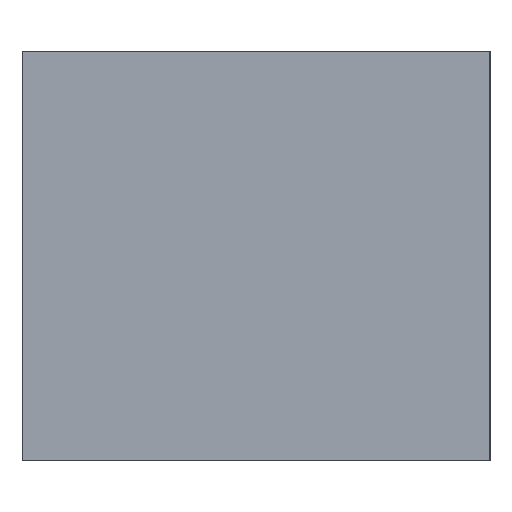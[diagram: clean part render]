
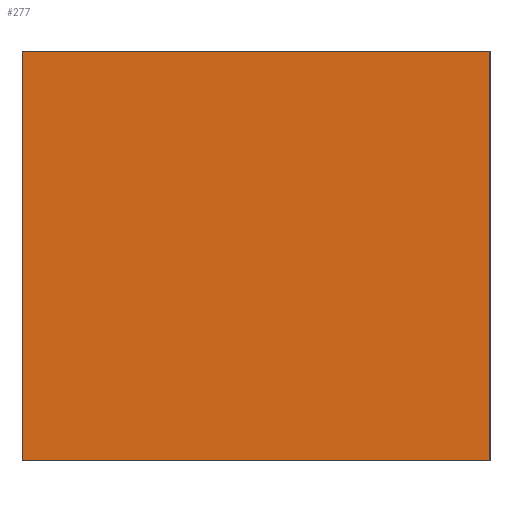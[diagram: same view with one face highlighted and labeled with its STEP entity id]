
A CAD part, left-side view. The second image highlights one B-rep face of the part: STEP entity #277.
In plain terms, the highlighted planar face has unit normal (-1, 0, 0).
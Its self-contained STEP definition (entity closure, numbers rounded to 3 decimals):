
#277=ADVANCED_FACE('',(#523),#525,.T.);
#523=FACE_BOUND('',#524,.T.);
#524=EDGE_LOOP('',(#700,#701,#702,#703));
#525=PLANE('',#526);
#526=AXIS2_PLACEMENT_3D('',#527,#528,#529);
#527=CARTESIAN_POINT('',(-0.8,-0.4,0.));
#528=DIRECTION('',(-1.,0.,0.));
#529=DIRECTION('',(0.,0.,1.));
#700=ORIENTED_EDGE('',*,*,#784,.T.);
#701=ORIENTED_EDGE('',*,*,#800,.T.);
#702=ORIENTED_EDGE('',*,*,#798,.F.);
#703=ORIENTED_EDGE('',*,*,#801,.F.);
#784=EDGE_CURVE('',#884,#885,#886,.T.);
#798=EDGE_CURVE('',#908,#900,#910,.T.);
#800=EDGE_CURVE('',#885,#900,#912,.T.);
#801=EDGE_CURVE('',#884,#908,#913,.T.);
#884=VERTEX_POINT('',#1084);
#885=VERTEX_POINT('',#1085);
#886=LINE('',#1086,#1087);
#900=VERTEX_POINT('',#1118);
#908=VERTEX_POINT('',#1134);
#910=LINE('',#1138,#1139);
#912=LINE('',#1144,#1145);
#913=LINE('',#1147,#1148);
#1084=CARTESIAN_POINT('',(-0.8,-0.4,0.));
#1085=CARTESIAN_POINT('',(-0.8,-0.4,0.7));
#1086=CARTESIAN_POINT('',(-0.8,-0.4,0.));
#1087=VECTOR('',#1088,1.);
#1088=DIRECTION('',(0.,0.,1.));
#1118=CARTESIAN_POINT('',(-0.8,0.4,0.7));
#1134=CARTESIAN_POINT('',(-0.8,0.4,0.));
#1138=CARTESIAN_POINT('',(-0.8,0.4,0.));
#1139=VECTOR('',#1140,1.);
#1140=DIRECTION('',(0.,0.,1.));
#1144=CARTESIAN_POINT('',(-0.8,-0.4,0.7));
#1145=VECTOR('',#1146,1.);
#1146=DIRECTION('',(0.,1.,0.));
#1147=CARTESIAN_POINT('',(-0.8,-0.4,0.));
#1148=VECTOR('',#1149,1.);
#1149=DIRECTION('',(0.,1.,0.));
